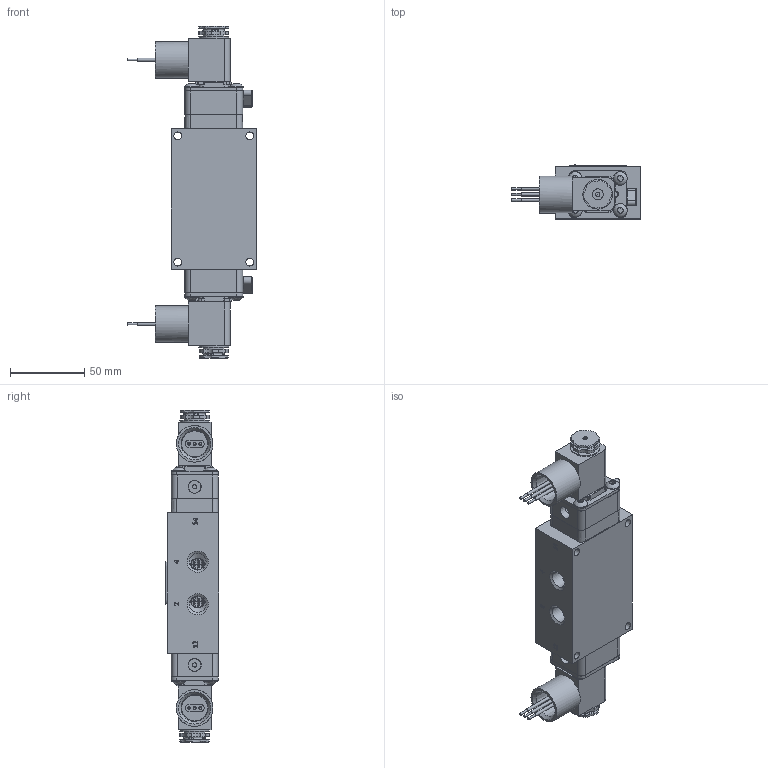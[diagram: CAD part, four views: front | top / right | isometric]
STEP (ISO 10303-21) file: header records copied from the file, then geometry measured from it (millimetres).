
FILE_DESCRIPTION(/* description */ (''),/* implementation_level */ '2;1');
FILE_NAME(/* name */ 'ESY2JOCZ.stp',/* time_stamp */ '2026-09-10T09:10:28-04:00',/* author */ ('rmckenna'),/* organization */ (''),/* preprocessor_version */ 'ST-DEVELOPER v20.2',/* originating_system */ 'Autodesk Inventor 2027',/* authorisation */ '');
FILE_SCHEMA (('AUTOMOTIVE_DESIGN { 1 0 10303 214 3 1 1 }'));
Products named in the file (1): Part35
Bounding box: 86.37 x 36.27 x 223.18 mm (x, y, z)
Volume: 252543.6 mm3; surface area: 95132 mm2
Topology: 1 solids, 28 shells, 2314 faces, 5799 edges, 3714 vertices
Faces by surface type: plane 1033, cylinder 672, cone 281, torus 182, bspline 136, sphere 10
Full cylindrical faces by diameter (mm): 1.168 x20, 1.3 x2, 1.397 x2, 1.5 x2, 1.524 x6, 2.032 x14, 2.07 x2, 2.261 x2, 2.35 x8, 2.5 x2, 2.778 x2, 2.8 x2, 3 x8, 3.048 x2, 3.4 x2, 3.683 x13, 3.912 x3, 4.191 x4, 4.394 x1, 4.826 x8, 5.15 x8, 5.156 x12, 5.5 x2, 6.65 x2, 7.29 x2, 7.9 x2, 8 x4, 8.433 x2, 8.6 x4, 9.144 x4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
Entity records: 78254 total; most frequent: CARTESIAN_POINT 20198, ORIENTED_EDGE 11564, DIRECTION 11563, EDGE_CURVE 5782, AXIS2_PLACEMENT_3D 4324, VERTEX_POINT 3712, LINE 2915, VECTOR 2915
